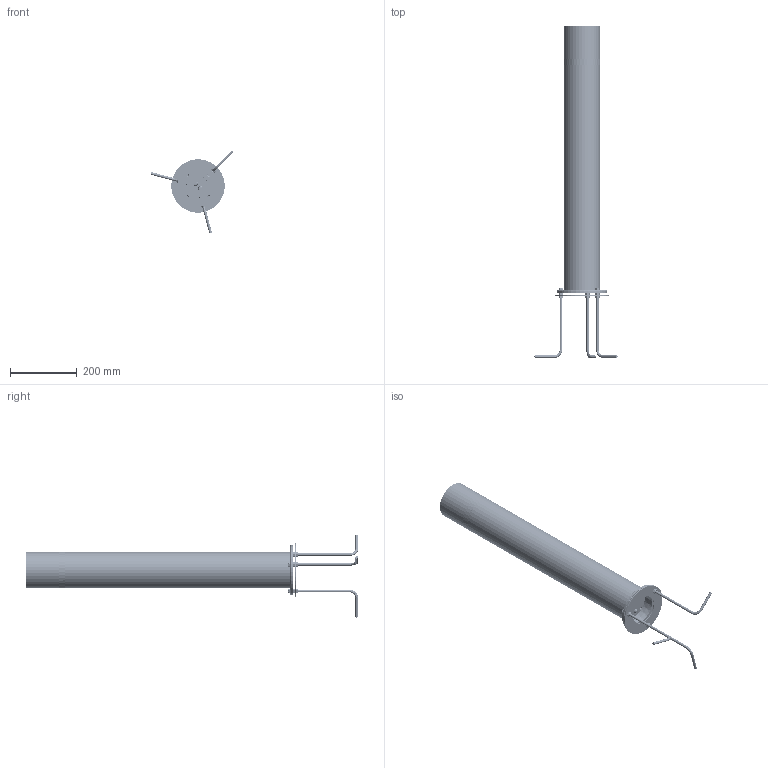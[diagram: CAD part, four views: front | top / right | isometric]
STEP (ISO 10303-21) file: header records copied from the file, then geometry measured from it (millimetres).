
FILE_DESCRIPTION((''),'2;1');
FILE_NAME('9EE-810_ASM','2024-09-20T',('C028'),(''),'CREO PARAMETRIC BY PTC INC, 2014190','CREO PARAMETRIC BY PTC INC, 2014190','');
FILE_SCHEMA(('CONFIG_CONTROL_DESIGN'));
Products named in the file (30): 9AD-07_300_1_35; XIN_XIA_GAI_A7_770; ZHONG_GAI_A8_165; XIN_TOU_GUANG_ZHAO_M_15; 10W_QU_DONG_6; XIN_SHANG_GAI_140; LED_DENG_BAN_15; XIN_FANG_SHUI_QUAN_54; 9EE_TOU_GUANG_ZHAO_A-9_81; SHANG_GAI_ZU_ASM_134_ASM; 9AB-04DUDINGZUOFANGSHUIQUAN_1_6; 9AB-03DUDINGZUOHOUGAI_1_8; PAD_312_1_1; FANGUANGSAI-1_312_1_1; FANGSHUISAI_312_1_1; PG9_ASM_315_ASM_1_ASM_2_ASM; M4_L100_4; LI_BAN; LI_BAN-24; 12-ZHUANGJIEGGAI_3; GUANZI_1; DICHA14A_ASM_1_ASM; 9AB_FA_LAN_PAN_56; M8-25; 9EE_A11_ASM_583_ASM; 9AB-11_4__ANY; M8LUOMU_3__ANY; 9AB-10_5__ANY; 9ABDIZUO_AF5_ASM_333_ASM_1_ANY_ASM; 9EE-810_ASM
Assembly tree (47 placements, depth 4):
  9EE-810_ASM
    9EE_A11_ASM_583_ASM
      9AD-07_300_1_35
      XIN_XIA_GAI_A7_770
      ZHONG_GAI_A8_165  x2
      XIN_TOU_GUANG_ZHAO_M_15
      10W_QU_DONG_6
      SHANG_GAI_ZU_ASM_134_ASM
        XIN_SHANG_GAI_140
        LED_DENG_BAN_15
        XIN_FANG_SHUI_QUAN_54
        9EE_TOU_GUANG_ZHAO_A-9_81
      9AB-04DUDINGZUOFANGSHUIQUAN_1_6
      9AB-03DUDINGZUOHOUGAI_1_8
      PG9_ASM_315_ASM_1_ASM_2_ASM  x2
        PAD_312_1_1
        FANGUANGSAI-1_312_1_1
        FANGSHUISAI_312_1_1
      M4_L100_4  x4
      LI_BAN
      LI_BAN-24
      DICHA14A_ASM_1_ASM
        12-ZHUANGJIEGGAI_3  x2
        GUANZI_1
      9AB_FA_LAN_PAN_56
      M8-25  x3
    9ABDIZUO_AF5_ASM_333_ASM_1_ANY_ASM
      9AB-11_4__ANY  x3
      M8LUOMU_3__ANY  x9
      9AB-10_5__ANY
Bounding box: 248.96 x 995.35 x 248.96 mm (x, y, z)
Volume: 1732757.1 mm3; surface area: 1102197.6 mm2
Topology: 44 solids, 52 shells, 5452 faces, 16406 edges, 9622 vertices
Faces by surface type: plane 1923, sphere 1584, cylinder 972, cone 476, bspline 256, torus 241
Entity records: 160547 total; most frequent: CARTESIAN_POINT 59446, ORIENTED_EDGE 22756, DIRECTION 19204, EDGE_CURVE 11378, AXIS2_PLACEMENT_3D 7905, VERTEX_POINT 7317, EDGE_LOOP 4439, B_SPLINE_CURVE_WITH_KNOTS 4258
